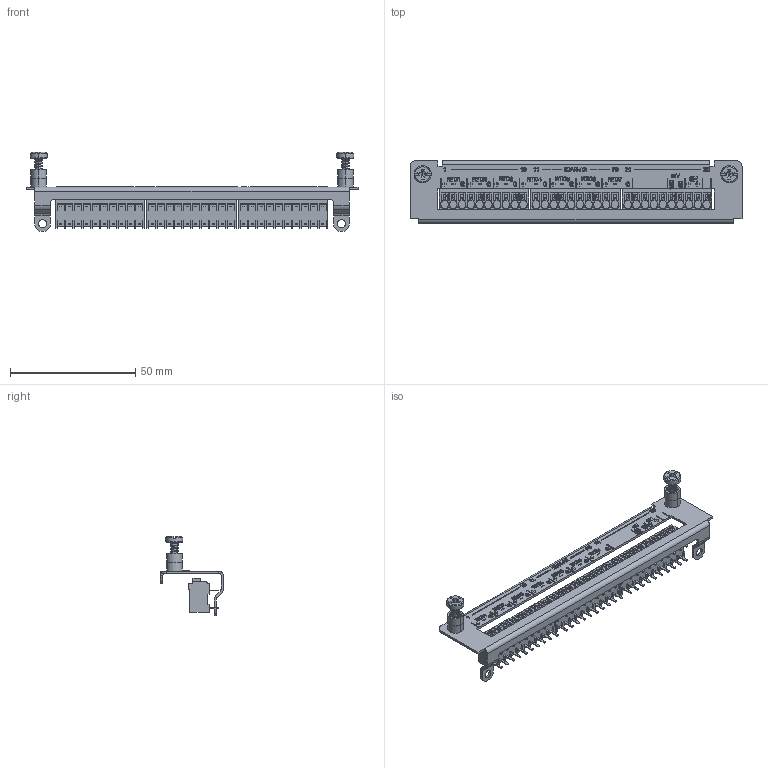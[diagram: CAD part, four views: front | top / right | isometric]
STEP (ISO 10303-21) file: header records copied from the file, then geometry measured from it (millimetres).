
FILE_DESCRIPTION(/* description */ (''),/* implementation_level */ '2;1');
FILE_NAME(/* name */ 'C:\Users\jondi\Desktop\FLEX 3D STP\A2-FLEX.stp',/* time_stamp */ '2021-03-10T15:58:23-06:00',/* author */ ('jondi'),/* organization */ (''),/* preprocessor_version */ 'ST-DEVELOPER v17.2',/* originating_system */ 'Autodesk Inventor 2019',/* authorisation */ '');
FILE_SCHEMA (('AUTOMOTIVE_DESIGN { 1 0 10303 214 3 1 1 }'));
Products named in the file (7): A2-FLEX; 9579230111; 9579200015; 9579200015_1; 44090; 9579200066; 44210
Assembly tree (9 placements, depth 4):
  A2-FLEX
    9579230111
      9579200015
        9579200015_1
      44090  x2
    9579200066
    44210  x3
Bounding box: 132.59 x 25.02 x 31.72 mm (x, y, z)
Volume: 12753.8 mm3; surface area: 17121 mm2
Topology: 104 solids, 104 shells, 3124 faces, 8300 edges, 5474 vertices
Faces by surface type: plane 2522, bspline 353, cylinder 191, cone 54, torus 4
Full cylindrical faces by diameter (mm): 1.2 x30, 3.251 x2, 4.826 x2
Entity records: 61905 total; most frequent: CARTESIAN_POINT 17446, ORIENTED_EDGE 9816, DIRECTION 7580, EDGE_CURVE 4908, LINE 3836, VECTOR 3836, VERTEX_POINT 3248, EDGE_LOOP 1992
